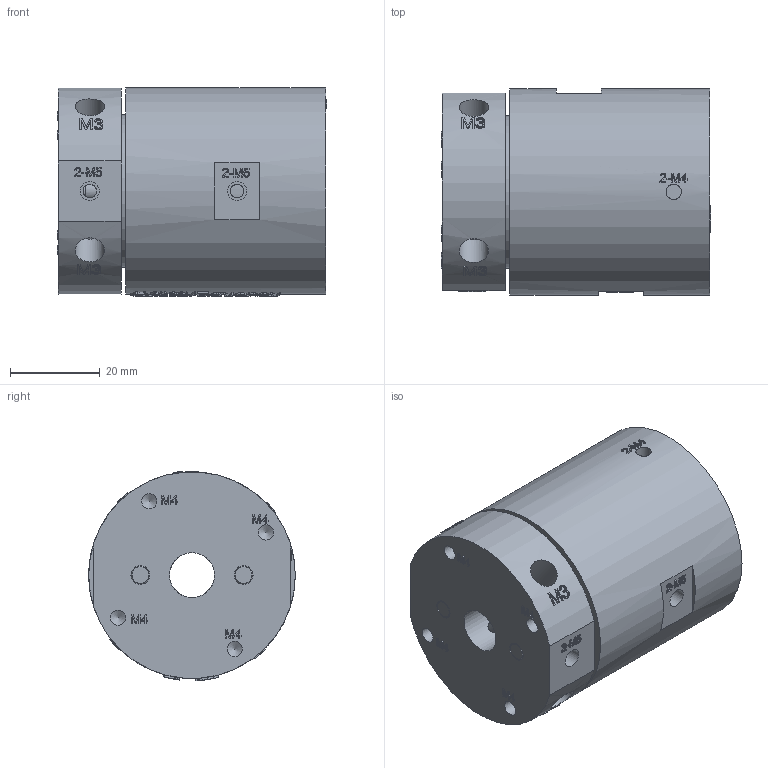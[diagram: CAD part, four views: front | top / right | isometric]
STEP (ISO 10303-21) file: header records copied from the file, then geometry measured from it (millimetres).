
FILE_DESCRIPTION(/* description */ (''),/* implementation_level */ '2;1');
FILE_NAME(/* name */ 'YQ002005-D10.stp',/* time_stamp */ '2025-09-05T10:39:44+08:00',/* author */ (''),/* organization */ (''),/* preprocessor_version */ 'ST-DEVELOPER v16.7',/* originating_system */ 'SIEMENS PLM Software NX 12.0',/* authorisation */ '');
FILE_SCHEMA (('AUTOMOTIVE_DESIGN { 1 0 10303 214 3 1 1 1 }'));
Products named in the file (1): Admi30D0F0663bll
Bounding box: 59.9 x 46 x 46.58 mm (x, y, z)
Volume: 88084 mm3; surface area: 19413.9 mm2
Topology: 1 solids, 3 shells, 1399 faces, 3856 edges, 2570 vertices
Faces by surface type: extrusion 720, plane 530, cylinder 73, bspline 63, cone 13
Full cylindrical faces by diameter (mm): 1.5 x2, 2.5 x10, 3 x4, 3.4 x6, 4.1 x2, 4.2 x8, 6.5 x4, 10 x1, 24 x1, 25 x1, 34 x1, 37 x1, 46 x1
Entity records: 55903 total; most frequent: CARTESIAN_POINT 26124, ORIENTED_EDGE 7534, EDGE_CURVE 3767, B_SPLINE_CURVE_WITH_KNOTS 3570, DIRECTION 3182, VERTEX_POINT 2547, EDGE_LOOP 1576, ADVANCED_FACE 1399
